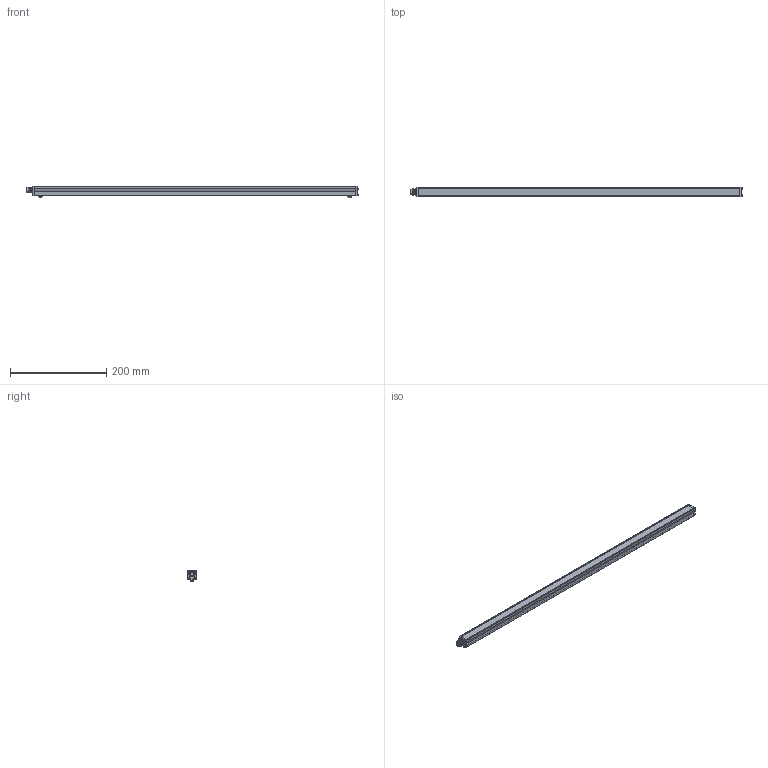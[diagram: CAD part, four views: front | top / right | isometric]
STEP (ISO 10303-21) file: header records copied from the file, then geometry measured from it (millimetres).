
FILE_DESCRIPTION (( 'STEP AP214' ), '1' );
FILE_NAME ('AL126 _NONSEALED__AL12626.stp', '2021-04-29T14:25:15', ( '' ), ( '' ), 'SwSTEP 2.0', 'SolidWorks 2018', '' );
FILE_SCHEMA (( 'AUTOMOTIVE_DESIGN' ));
Length unit declared in the file: inch
Products named in the file (15): 090876; 090875; 090877-XX_090877-26; 093474_093474; 10mm Swish_Default<As Machined>; 10mm Label (116 126)_Default<As Machined>; 10mm Advanced illumination; BH-M4x6; 091052 (116 126); 090889-XX_090889-26; HN-M4_90592A016; 091064_Model_Dome Fittings_Thread Type and Size(Dome)_M10 x 1.5_Hazardous Location-Explosive Proof(ATEX and EExe Versions)_No_; 093469_093469; AL126 _NONSEALED__AL12626; 10mm Ai
Assembly tree (24 placements, depth 3):
  AL126 _NONSEALED__AL12626
    090889-XX_090889-26
    090877-XX_090877-26
    090875
    090876
    093474_093474  x8
    093469_093469  x2
    091064_Model_Dome Fittings_Thread Type and Size(Dome)_M10 x 1.5_Hazardous Location-Explosive Proof(ATEX and EExe Versions)_No_
    HN-M4_90592A016  x2
    BH-M4x6  x2
    091052 (116 126)
      10mm Label (116 126)_Default<As Machined>
      10mm Ai
      10mm Swish_Default<As Machined>
      10mm Advanced illumination
Bounding box: 689.53 x 20.02 x 24.1 mm (x, y, z)
Volume: 92658.8 mm3; surface area: 132318.2 mm2
Topology: 48 solids, 48 shells, 1877 faces, 4840 edges, 3010 vertices
Faces by surface type: cylinder 934, plane 401, cone 362, bspline 120, torus 60
Entity records: 30293 total; most frequent: CARTESIAN_POINT 10456, ORIENTED_EDGE 4076, DIRECTION 3580, EDGE_CURVE 2038, VERTEX_POINT 1298, AXIS2_PLACEMENT_3D 1276, VECTOR 1028, LINE 1028
